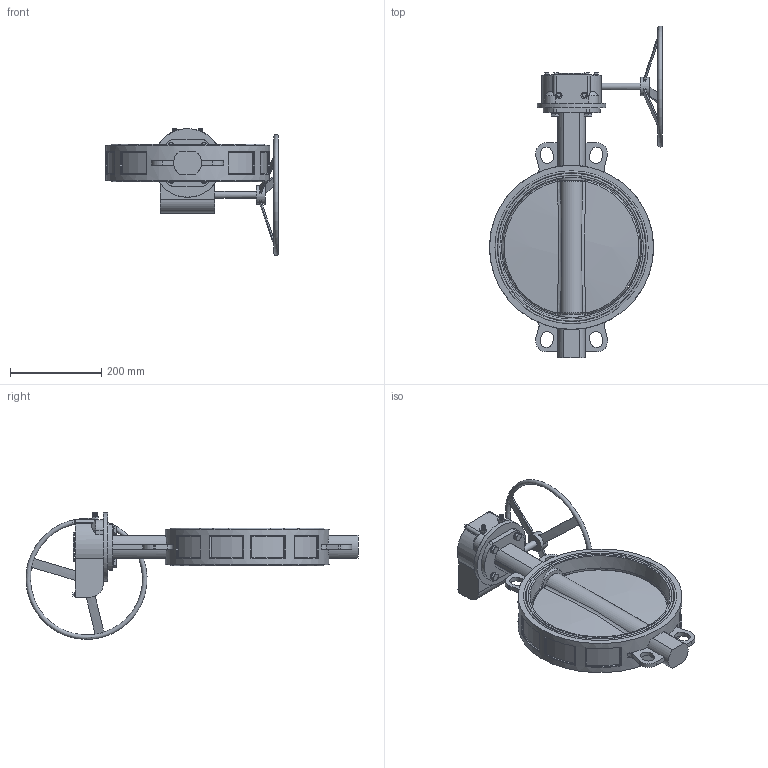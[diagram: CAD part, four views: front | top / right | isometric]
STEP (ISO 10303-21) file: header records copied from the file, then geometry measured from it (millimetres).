
FILE_DESCRIPTION (( 'STEP AP214' ), '1' );
FILE_NAME ('恦謫 勤標評概 Fig.3230-300.STEP', '2026-03-23T08:04:40', ( '' ), ( '' ), 'SwSTEP 2.0', 'SolidWorks 2024', '' );
FILE_SCHEMA (( 'AUTOMOTIVE_DESIGN' ));
Length unit declared in the file: millimetre
Products named in the file (1): 涡轮 对夹蝶阀 Fig.3230-300
Bounding box: 378.49 x 726.38 x 277.38 mm (x, y, z)
Volume: 5575834.6 mm3; surface area: 625610 mm2
Topology: 1 solids, 3 shells, 727 faces, 1844 edges, 1202 vertices
Faces by surface type: plane 372, bspline 136, cylinder 132, cone 46, torus 37, sphere 4
Full cylindrical faces by diameter (mm): 6 x4, 10 x10, 10.9 x4, 12 x4, 15 x1, 16.9 x4, 20 x1, 31.6 x2, 31.8 x2, 40 x1, 64 x1, 83 x1, 150 x1, 359 x1
Entity records: 43006 total; most frequent: CARTESIAN_POINT 18858, ORIENTED_EDGE 3564, DIRECTION 2869, EDGE_CURVE 1782, VERTEX_POINT 1181, AXIS2_PLACEMENT_3D 973, LINE 923, VECTOR 923
